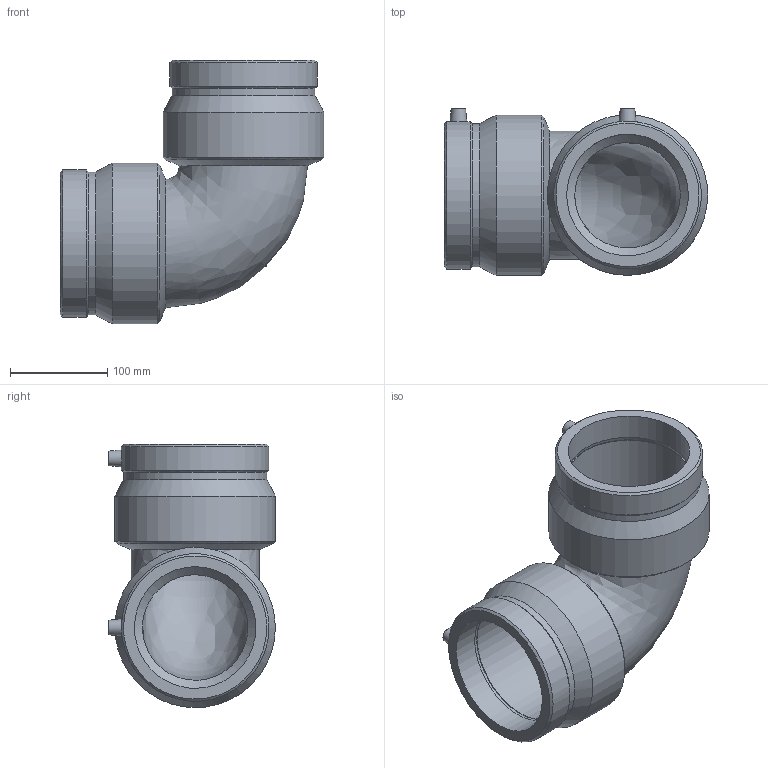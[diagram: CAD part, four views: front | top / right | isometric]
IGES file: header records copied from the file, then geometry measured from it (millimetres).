
Global section: file name: 490504125; native system: Autodesk Inventor 2026; preprocessor: unknown; author: KIM; date: 20260322.131247; units: millimetre
Bounding box: 270.99 x 171.5 x 270.99 mm (x, y, z)
Volume: 2184264.5 mm3; surface area: 316137.9 mm2
Topology: 1 solids, 1 shells, 42 faces, 108 edges, 76 vertices
Faces by surface type: bspline 42
